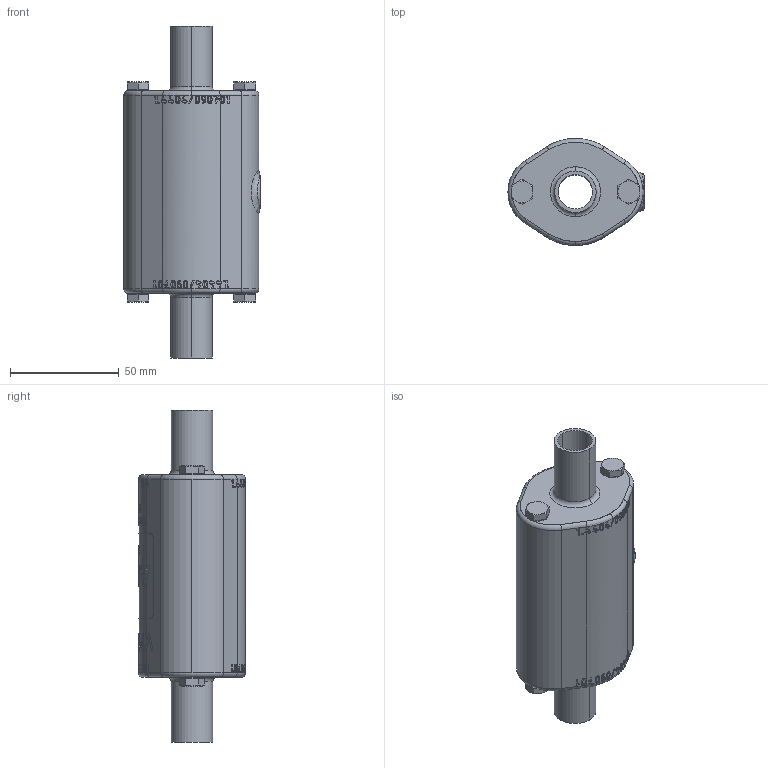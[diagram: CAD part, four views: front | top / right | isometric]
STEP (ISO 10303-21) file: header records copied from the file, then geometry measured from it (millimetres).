
FILE_DESCRIPTION (( 'STEP AP214' ), '1' );
FILE_NAME ('VMC20xx50RA50_EV.STEP', '2014-11-14T08:32:09', ( '' ), ( '' ), 'SwSTEP 2.0', 'SolidWorks 2014', '' );
FILE_SCHEMA (( 'AUTOMOTIVE_DESIGN' ));
Length unit declared in the file: millimetre
Products named in the file (1): VMC20xx50RA50_EV
Bounding box: 62.5 x 49 x 152.4 mm (x, y, z)
Volume: 188020.6 mm3; surface area: 32736.7 mm2
Topology: 1 solids, 1 shells, 1413 faces, 3866 edges, 2512 vertices
Faces by surface type: bspline 752, plane 458, cylinder 157, cone 30, torus 16
Entity records: 101439 total; most frequent: CARTESIAN_POINT 56130, ORIENTED_EDGE 7732, EDGE_CURVE 3866, DIRECTION 3640, VERTEX_POINT 2512, B_SPLINE_CURVE_WITH_KNOTS 1808, EDGE_LOOP 1472, LINE 1428
